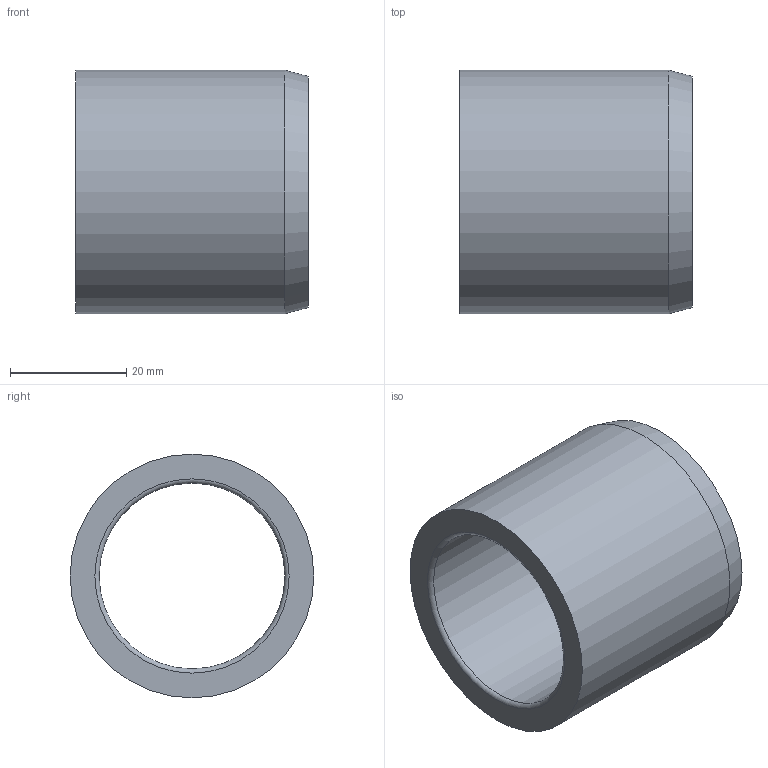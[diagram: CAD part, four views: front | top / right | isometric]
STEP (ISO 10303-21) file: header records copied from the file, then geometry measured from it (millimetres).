
FILE_DESCRIPTION(/* description */ ('Impex Ready, www.impex-ready.pl'),/* implementation_level */ '2;1');
FILE_NAME(/* name */ 'C:\Users\VIKKY\Nextcloud\SM\projekt 10 - części na stronę internetową\Pliki_3D_new\306 Tuleje BG04\306_BG04_STEP\BG04.324240.ipt.step',/* time_stamp */ '2021-12-17T16:33:17+01:00',/* author */ ('SM'),/* organization */ (''),/* preprocessor_version */ 'ST-DEVELOPER v18.1',/* originating_system */ 'Autodesk Inventor 2021',/* authorisation */ '');
FILE_SCHEMA (('AUTOMOTIVE_DESIGN { 1 0 10303 214 3 1 1 }'));
Length unit declared in the file: millimetre
Products named in the file (1): BG04.324240
Bounding box: 40 x 42 x 42 mm (x, y, z)
Volume: 22945.2 mm3; surface area: 10264.1 mm2
Topology: 1 solids, 1 shells, 7 faces, 14 edges, 9 vertices
Faces by surface type: torus 2, cylinder 2, plane 2, cone 1
Full cylindrical faces by diameter (mm): 32 x1, 42 x1
Entity records: 261 total; most frequent: DIRECTION 41, CARTESIAN_POINT 31, ORIENTED_EDGE 28, AXIS2_PLACEMENT_3D 19, EDGE_CURVE 14, CIRCLE 11, EDGE_LOOP 9, VERTEX_POINT 9
